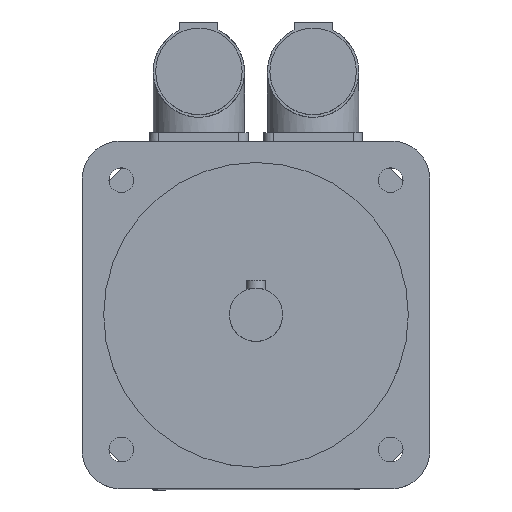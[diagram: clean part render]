
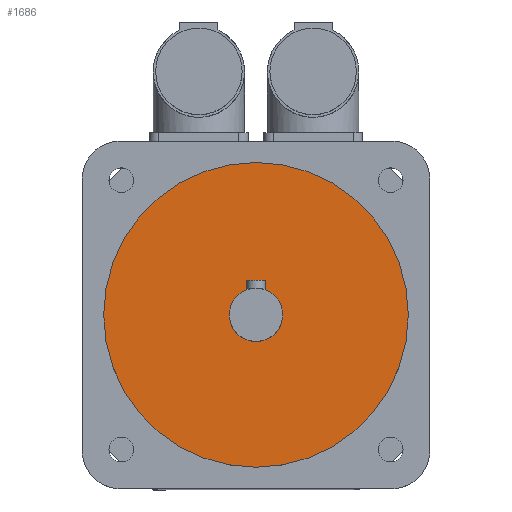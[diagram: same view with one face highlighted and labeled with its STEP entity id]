
A CAD part, top view. The second image highlights one B-rep face of the part: STEP entity #1686.
In plain terms, the highlighted planar face has unit normal (0, 0, 1).
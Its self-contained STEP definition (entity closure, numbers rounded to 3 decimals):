
#28=FACE_BOUND('',#305,.T.);
#53=CIRCLE('',#1788,7.);
#54=CIRCLE('',#1791,40.);
#202=FACE_OUTER_BOUND('',#304,.T.);
#304=EDGE_LOOP('',(#1158));
#305=EDGE_LOOP('',(#1159));
#718=VERTEX_POINT('',#2569);
#719=VERTEX_POINT('',#2573);
#892=EDGE_CURVE('',#718,#718,#53,.T.);
#893=EDGE_CURVE('',#719,#719,#54,.T.);
#1158=ORIENTED_EDGE('',*,*,#893,.T.);
#1159=ORIENTED_EDGE('',*,*,#892,.T.);
#1633=PLANE('',#1793);
#1686=ADVANCED_FACE('',(#202,#28),#1633,.T.);
#1788=AXIS2_PLACEMENT_3D('',#2570,#2000,#2001);
#1791=AXIS2_PLACEMENT_3D('',#2574,#2006,#2007);
#1793=AXIS2_PLACEMENT_3D('',#2577,#2010,#2011);
#2000=DIRECTION('center_axis',(0.,0.,-1.));
#2001=DIRECTION('ref_axis',(-1.,0.,0.));
#2006=DIRECTION('center_axis',(0.,0.,1.));
#2007=DIRECTION('ref_axis',(-1.,0.,0.));
#2010=DIRECTION('center_axis',(0.,0.,1.));
#2011=DIRECTION('ref_axis',(1.,0.,0.));
#2569=CARTESIAN_POINT('',(7.,0.,165.));
#2570=CARTESIAN_POINT('Origin',(0.,0.,165.));
#2573=CARTESIAN_POINT('',(40.,0.,165.));
#2574=CARTESIAN_POINT('Origin',(0.,0.,165.));
#2577=CARTESIAN_POINT('Origin',(0.,0.,
165.));
